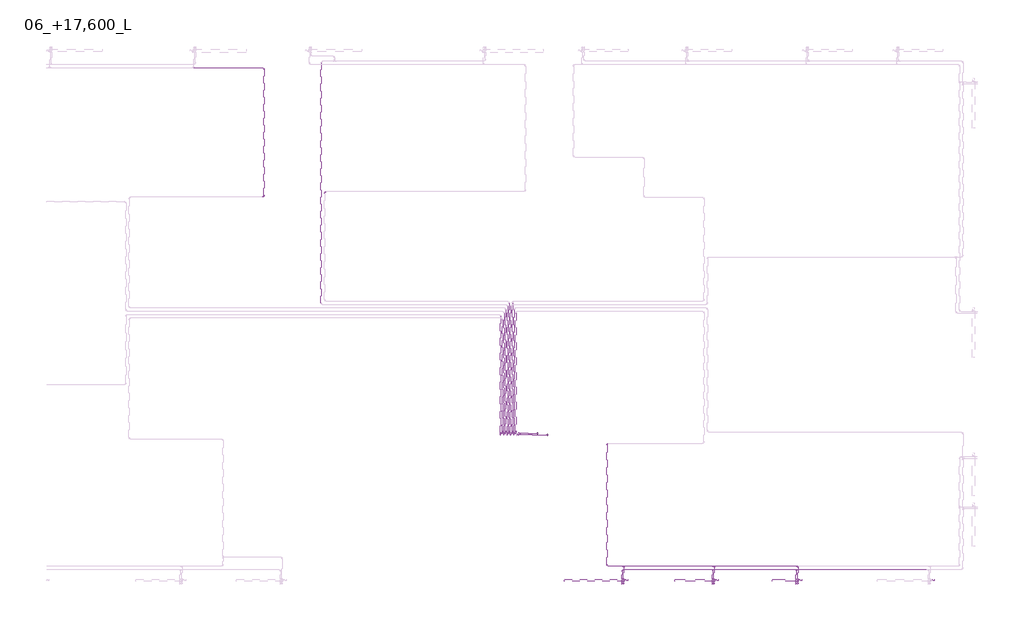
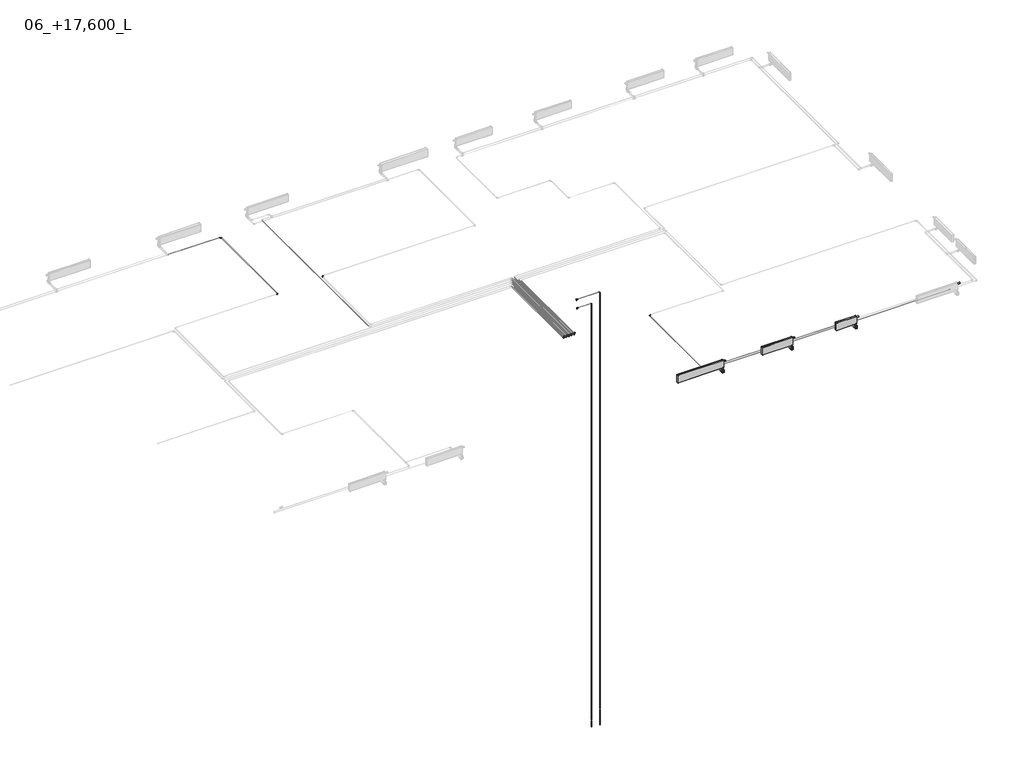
# One storey, part 3 of 7: 32 pipe segments, 31 pipe fittings, 4 valves, 3 proxies.
"""IFC4 building model written with IfcOpenShell, lengths in millimetres."""

from ifc_helpers import new_model, si_unit, point, frame, frame_2d, origin, place, context, project, spatial, circle_curve, trimmed, segment, composite_curve, outline, extrude, transform, mapped, element, save
from components import mechanical_equipment_da64a6a1, mechanical_equipment_b2526e06, mechanical_equipment_6df30eec, pipe_fitting_6ad8f151, pipe_fitting_ed936812, pipe_fitting_44bd76dc, pipe_fitting_8f811e63, pipe_fitting_d927fdfb, pipe_fitting_bc65f26d, valve_f5090433, valve_d3faaedd, valve_8453c3c0, valve_c0d130b6

model = new_model("IFC4")

# Units and contexts
model_context = context("Model", 3, world=origin())
ifc_project = project(units=[si_unit("LENGTHUNIT", "METRE", prefix="MILLI")], contexts=[model_context])

# Site, building, storey
site = spatial("IfcSite", under=ifc_project)
building = spatial("IfcBuilding", under=site)
storey = spatial("IfcBuildingStorey", under=building, Name="06_+17,600_L", Elevation=17600.0)

# Proxies
placement = place(None, origin())
mechanical_equipment_shape = mechanical_equipment_da64a6a1(model_context)
element("IfcBuildingElementProxy", 1, Name="EVRA CV Д : 21-300-1200", ObjectType="EVRA CV Д : 21-300-1200", at=placement, inside=storey, context=model_context, shape_type="MappedRepresentation", body=[
    mapped(mechanical_equipment_shape, transform((73800.0, 112561.4631102, 31400.0), x_axis=(-1.0, 0.0, 0.0), y_axis=(0.0, -1.0, 0.0), z_axis=(0.0, 0.0, 1.0))),
])
mechanical_equipment_2_shape = mechanical_equipment_b2526e06(model_context)
element("IfcBuildingElementProxy", 2, Name="EVRA CV Д : 21-300-800", ObjectType="EVRA CV Д : 21-300-800", at=placement, inside=storey, context=model_context, shape_type="MappedRepresentation", body=[
    mapped(mechanical_equipment_2_shape, transform((76500.0, 112561.4631102, 31400.0), x_axis=(-1.0, 0.0, 0.0), y_axis=(0.0, -1.0, 0.0), z_axis=(0.0, 0.0, 1.0))),
])
mechanical_equipment_3_shape = mechanical_equipment_6df30eec(model_context)
element("IfcBuildingElementProxy", 3, Name="EVRA CV Д : 21-300-1800", ObjectType="EVRA CV Д : 21-300-1800", at=placement, inside=storey, context=model_context, shape_type="MappedRepresentation", body=[
    mapped(mechanical_equipment_3_shape, transform((70800.0, 112561.4631102, 31400.0), x_axis=(-1.0, 0.0, 0.0), y_axis=(0.0, -1.0, 0.0), z_axis=(0.0, 0.0, 1.0))),
])

# Pipe fittings
pipe_fitting_shape = pipe_fitting_6ad8f151(model_context)
element("IfcPipeFitting", 4, ObjectType="ADSK_ЧугунРезьба_Угольник_ГОСТ8946-75 : Неоцинкованные", at=placement, inside=storey, context=model_context, shape_type="MappedRepresentation", body=[
    mapped(pipe_fitting_shape, transform((69191.7798813, 116926.95231, 32784.1856315), x_axis=(1.0, 0.0, 0.0), y_axis=(0.0, 0.0, -1.0), z_axis=(0.0, 1.0, 0.0))),
])
element("IfcPipeFitting", 5, ObjectType="ADSK_ЧугунРезьба_Угольник_ГОСТ8946-75 : Неоцинкованные", at=placement, inside=storey, context=model_context, shape_type="MappedRepresentation", body=[
    mapped(pipe_fitting_shape, transform((68898.0298813, 116971.95231, 32384.1856315), x_axis=(1.0, 0.0, 0.0), y_axis=(0.0, 0.0, -1.0), z_axis=(0.0, 1.0, 0.0))),
])
pipe_fitting_2_shape = pipe_fitting_ed936812(model_context)
element("IfcPipeFitting", 6, ObjectType="ADSK_Пресс-фитинг ПЭ_Поворот с фиксатором : Поворот трубы", at=placement, inside=storey, context=model_context, shape_type="MappedRepresentation", body=[
    mapped(pipe_fitting_2_shape, transform((68245.0, 116971.95231, 31350.0), x_axis=(0.0, -1.0, 0.0), y_axis=(0.0, 0.0, 1.0), z_axis=(-1.0, 0.0, 0.0))),
])
element("IfcPipeFitting", 7, ObjectType="ADSK_Пресс-фитинг ПЭ_Поворот с фиксатором : Поворот трубы", at=placement, inside=storey, context=model_context, shape_type="MappedRepresentation", body=[
    mapped(pipe_fitting_2_shape, transform((68145.0, 116971.95231, 31350.0), x_axis=(0.0, -1.0, 0.0), y_axis=(0.0, 0.0, 1.0), z_axis=(-1.0, 0.0, 0.0))),
])
element("IfcPipeFitting", 8, ObjectType="ADSK_Пресс-фитинг ПЭ_Поворот с фиксатором : Поворот трубы", at=placement, inside=storey, context=model_context, shape_type="MappedRepresentation", body=[
    mapped(pipe_fitting_2_shape, transform((68095.0, 116926.95231, 31350.0), x_axis=(0.0, -1.0, 0.0), y_axis=(0.0, 0.0, 1.0), z_axis=(-1.0, 0.0, 0.0))),
])
element("IfcPipeFitting", 9, ObjectType="ADSK_Пресс-фитинг ПЭ_Поворот с фиксатором : Поворот трубы", at=placement, inside=storey, context=model_context, shape_type="MappedRepresentation", body=[
    mapped(pipe_fitting_2_shape, transform((68195.0, 116926.95231, 31350.0), x_axis=(0.0, -1.0, 0.0), y_axis=(0.0, 0.0, 1.0), z_axis=(-1.0, 0.0, 0.0))),
])
element("IfcPipeFitting", 10, ObjectType="ADSK_Пресс-фитинг ПЭ_Поворот с фиксатором : Поворот трубы", at=placement, inside=storey, context=model_context, shape_type="MappedRepresentation", body=[
    mapped(pipe_fitting_2_shape, transform((67995.0, 116926.95231, 31350.0), x_axis=(0.0, -1.0, 0.0), y_axis=(0.0, 0.0, 1.0), z_axis=(-1.0, 0.0, 0.0))),
])
element("IfcPipeFitting", 11, ObjectType="ADSK_Пресс-фитинг ПЭ_Поворот с фиксатором : Поворот трубы", at=placement, inside=storey, context=model_context, shape_type="MappedRepresentation", body=[
    mapped(pipe_fitting_2_shape, transform((67895.0, 116926.95231, 31350.0), x_axis=(0.0, -1.0, 0.0), y_axis=(0.0, 0.0, 1.0), z_axis=(-1.0, 0.0, 0.0))),
])
element("IfcPipeFitting", 12, ObjectType="ADSK_Пресс-фитинг ПЭ_Поворот с фиксатором : Поворот трубы", at=placement, inside=storey, context=model_context, shape_type="MappedRepresentation", body=[
    mapped(pipe_fitting_2_shape, transform((67795.0, 116926.95231, 31350.0), x_axis=(0.0, -1.0, 0.0), y_axis=(0.0, 0.0, 1.0), z_axis=(-1.0, 0.0, 0.0))),
])
element("IfcPipeFitting", 13, ObjectType="ADSK_Пресс-фитинг ПЭ_Поворот с фиксатором : Поворот трубы", at=placement, inside=storey, context=model_context, shape_type="MappedRepresentation", body=[
    mapped(pipe_fitting_2_shape, transform((67845.0, 116971.95231, 31350.0), x_axis=(0.0, -1.0, 0.0), y_axis=(0.0, 0.0, 1.0), z_axis=(-1.0, 0.0, 0.0))),
])
element("IfcPipeFitting", 14, ObjectType="ADSK_Пресс-фитинг ПЭ_Поворот с фиксатором : Поворот трубы", at=placement, inside=storey, context=model_context, shape_type="MappedRepresentation", body=[
    mapped(pipe_fitting_2_shape, transform((67945.0, 116971.95231, 31350.0), x_axis=(0.0, -1.0, 0.0), y_axis=(0.0, 0.0, 1.0), z_axis=(-1.0, 0.0, 0.0))),
])
element("IfcPipeFitting", 15, ObjectType="ADSK_Пресс-фитинг ПЭ_Поворот с фиксатором : Поворот трубы", at=placement, inside=storey, context=model_context, shape_type="MappedRepresentation", body=[
    mapped(pipe_fitting_2_shape, transform((68045.0, 116971.95231, 31350.0), x_axis=(0.0, -1.0, 0.0), y_axis=(0.0, 0.0, 1.0), z_axis=(-1.0, 0.0, 0.0))),
])
pipe_fitting_3_shape = pipe_fitting_44bd76dc(model_context)
element("IfcPipeFitting", 16, ObjectType="ADSK_Пресс-фитинг ПЭ_Тройник : Пластик черный", at=placement, inside=storey, context=model_context, shape_type="MappedRepresentation", body=[
    mapped(pipe_fitting_3_shape, transform((71470.0, 113000.0, 31350.0), x_axis=(1.0, 0.0, 0.0), y_axis=(0.0, 1.0, 0.0), z_axis=(0.0, 0.0, 1.0))),
])
element("IfcPipeFitting", 17, ObjectType="ADSK_Пресс-фитинг ПЭ_Тройник : Пластик черный", at=placement, inside=storey, context=model_context, shape_type="MappedRepresentation", body=[
    mapped(pipe_fitting_3_shape, transform((76670.0, 113000.0, 31350.0), x_axis=(1.0, 0.0, 0.0), y_axis=(0.0, 1.0, 0.0), z_axis=(0.0, 0.0, 1.0))),
])
element("IfcPipeFitting", 18, ObjectType="ADSK_Пресс-фитинг ПЭ_Тройник : Пластик черный", at=placement, inside=storey, context=model_context, shape_type="MappedRepresentation", body=[
    mapped(pipe_fitting_3_shape, transform((76620.0, 112900.0, 31350.0), x_axis=(1.0, 0.0, 0.0), y_axis=(0.0, 1.0, 0.0), z_axis=(0.0, 0.0, 1.0))),
])
element("IfcPipeFitting", 19, ObjectType="ADSK_Пресс-фитинг ПЭ_Тройник : Пластик черный", at=placement, inside=storey, context=model_context, shape_type="MappedRepresentation", body=[
    mapped(pipe_fitting_3_shape, transform((74170.0, 113000.0, 31350.0), x_axis=(1.0, 0.0, 0.0), y_axis=(0.0, 1.0, 0.0), z_axis=(0.0, 0.0, 1.0))),
])
element("IfcPipeFitting", 20, ObjectType="ADSK_Пресс-фитинг ПЭ_Тройник : Пластик черный", at=placement, inside=storey, context=model_context, shape_type="MappedRepresentation", body=[
    mapped(pipe_fitting_3_shape, transform((74120.0, 112900.0, 31350.0), x_axis=(1.0, 0.0, 0.0), y_axis=(0.0, 1.0, 0.0), z_axis=(0.0, 0.0, 1.0))),
])
pipe_fitting_4_shape = pipe_fitting_8f811e63(model_context)
element("IfcPipeFitting", 21, ObjectType="ADSK_Пресс-фитинг ПЭ_Поворот с фиксатором : Поворот трубы", at=placement, inside=storey, context=model_context, shape_type="MappedRepresentation", body=[
    mapped(pipe_fitting_4_shape, transform((60730.0, 127900.0, 31350.0), x_axis=(0.0, 1.0, 0.0), y_axis=(-1.0, 0.0, 0.0), z_axis=(0.0, 0.0, 1.0))),
])
element("IfcPipeFitting", 22, ObjectType="ADSK_Пресс-фитинг ПЭ_Поворот с фиксатором : Поворот трубы", at=placement, inside=storey, context=model_context, shape_type="MappedRepresentation", body=[
    mapped(pipe_fitting_4_shape, transform((70970.0, 113000.0, 31350.0), x_axis=(0.0, -1.0, 0.0), y_axis=(1.0, 0.0, 0.0), z_axis=(0.0, 0.0, 1.0))),
])
element("IfcPipeFitting", 23, ObjectType="ADSK_Пресс-фитинг ПЭ_Поворот с фиксатором : Поворот трубы", at=placement, inside=storey, context=model_context, shape_type="MappedRepresentation", body=[
    mapped(pipe_fitting_4_shape, transform((70970.0, 116670.0, 31350.0), x_axis=(-1.0, 0.0, 0.0), y_axis=(0.0, -1.0, 0.0), z_axis=(0.0, 0.0, 1.0))),
])
element("IfcPipeFitting", 24, ObjectType="ADSK_Пресс-фитинг ПЭ_Поворот с фиксатором : Поворот трубы", at=placement, inside=storey, context=model_context, shape_type="MappedRepresentation", body=[
    mapped(pipe_fitting_4_shape, transform((62535.0, 124200.0, 31350.0), x_axis=(-1.0, 0.0, 0.0), y_axis=(0.0, -1.0, 0.0), z_axis=(0.0, 0.0, 1.0))),
])
element("IfcPipeFitting", 25, ObjectType="ADSK_Пресс-фитинг ПЭ_Поворот с фиксатором : Поворот трубы", at=placement, inside=storey, context=model_context, shape_type="MappedRepresentation", body=[
    mapped(pipe_fitting_4_shape, transform((60730.0, 124040.0, 31350.0), x_axis=(1.0, 0.0, 0.0), y_axis=(0.0, 1.0, 0.0), z_axis=(0.0, 0.0, 1.0))),
])
element("IfcPipeFitting", 26, ObjectType="ADSK_Пресс-фитинг ПЭ_Поворот с фиксатором : Поворот трубы", at=placement, inside=storey, context=model_context, shape_type="MappedRepresentation", body=[
    mapped(pipe_fitting_4_shape, transform((71420.0, 112900.0, 31350.0), x_axis=(-1.0, 0.0, 0.0), y_axis=(0.0, -1.0, 0.0), z_axis=(0.0, 0.0, 1.0))),
])
pipe_fitting_5_shape = pipe_fitting_d927fdfb(model_context)
element("IfcPipeFitting", 27, ObjectType="Трубка Г-образная VTm.481.PC из стены : VTm.481.PC", at=placement, inside=storey, context=model_context, shape_type="MappedRepresentation", body=[
    mapped(pipe_fitting_5_shape, transform((74170.0, 112512.0, 31350.0), x_axis=(-1.0, 0.0, 0.0), y_axis=(0.0, -1.0, 0.0), z_axis=(0.0, 0.0, 1.0))),
])
element("IfcPipeFitting", 28, ObjectType="Трубка Г-образная VTm.481.PC из стены : VTm.481.PC", at=placement, inside=storey, context=model_context, shape_type="MappedRepresentation", body=[
    mapped(pipe_fitting_5_shape, transform((71470.0, 112512.0, 31350.0), x_axis=(-1.0, 0.0, 0.0), y_axis=(0.0, -1.0, 0.0), z_axis=(0.0, 0.0, 1.0))),
])
element("IfcPipeFitting", 29, ObjectType="Трубка Г-образная VTm.481.PC из стены : VTm.481.PC", at=placement, inside=storey, context=model_context, shape_type="MappedRepresentation", body=[
    mapped(pipe_fitting_5_shape, transform((76670.0, 112512.0, 31350.0), x_axis=(-1.0, 0.0, 0.0), y_axis=(0.0, -1.0, 0.0), z_axis=(0.0, 0.0, 1.0))),
])
element("IfcPipeFitting", 30, ObjectType="Трубка Г-образная VTm.481.PC из стены : VTm.481.PC", at=placement, inside=storey, context=model_context, shape_type="MappedRepresentation", body=[
    mapped(pipe_fitting_5_shape, transform((74120.0, 112512.0, 31350.0), x_axis=(-1.0, 0.0, 0.0), y_axis=(0.0, -1.0, 0.0), z_axis=(0.0, 0.0, 1.0))),
])
element("IfcPipeFitting", 31, ObjectType="Трубка Г-образная VTm.481.PC из стены : VTm.481.PC", at=placement, inside=storey, context=model_context, shape_type="MappedRepresentation", body=[
    mapped(pipe_fitting_5_shape, transform((71420.0, 112512.0, 31350.0), x_axis=(-1.0, 0.0, 0.0), y_axis=(0.0, -1.0, 0.0), z_axis=(0.0, 0.0, 1.0))),
])
element("IfcPipeFitting", 32, ObjectType="Трубка Г-образная VTm.481.PC из стены : VTm.481.PC", at=placement, inside=storey, context=model_context, shape_type="MappedRepresentation", body=[
    mapped(pipe_fitting_5_shape, transform((76620.0, 112512.0, 31350.0), x_axis=(-1.0, 0.0, 0.0), y_axis=(0.0, -1.0, 0.0), z_axis=(0.0, 0.0, 1.0))),
])
pipe_fitting_6_shape = pipe_fitting_bc65f26d(model_context)
element("IfcPipeFitting", 33, ObjectType="ADSK_ЧугунРезьба_МуфтаПереходная_ГОСТ8957-75 : Неоцинкованные", at=placement, inside=storey, context=model_context, shape_type="MappedRepresentation", body=[
    mapped(pipe_fitting_6_shape, transform((68276.0, 116926.95231, 32784.1856315), x_axis=(1.0, 0.0, 0.0), y_axis=(0.0, 1.0, 0.0), z_axis=(0.0, 0.0, 1.0))),
])
element("IfcPipeFitting", 34, ObjectType="ADSK_ЧугунРезьба_МуфтаПереходная_ГОСТ8957-75 : Неоцинкованные", at=placement, inside=storey, context=model_context, shape_type="MappedRepresentation", body=[
    mapped(pipe_fitting_6_shape, transform((68326.0, 116971.95231, 32384.1856315), x_axis=(1.0, 0.0, 0.0), y_axis=(0.0, 1.0, 0.0), z_axis=(0.0, 0.0, 1.0))),
])

# Pipe segments
element("IfcPipeSegment", 35, ObjectType="ADSK_Сталь водогазопроводная_Неоцинкованная_ГОСТ 3262-75", at=placement, inside=storey, context=model_context, shape_type="SweptSolid", body=[
    extrude(outline(composite_curve([segment(trimmed(circle_curve(frame_2d((116926.95231, 32784.1856315)), 10.65), [point((116937.60231, 32784.1856315))], [point((116926.95231, 32773.5356315))], False, "CARTESIAN"), True, "CONTINUOUS"), segment(trimmed(circle_curve(frame_2d((116926.95231, 32784.1856315)), 10.65), [point((116926.95231, 32773.5356315))], [point((116916.30231, 32784.1856315))], False, "CARTESIAN"), True, "CONTINUOUS"), segment(trimmed(circle_curve(frame_2d((116926.95231, 32784.1856315)), 10.65), [point((116916.30231, 32784.1856315))], [point((116926.95231, 32794.8356315))], False, "CARTESIAN"), True, "CONTINUOUS"), segment(trimmed(circle_curve(frame_2d((116926.95231, 32784.1856315)), 10.65), [point((116926.95231, 32794.8356315))], [point((116937.60231, 32784.1856315))], False, "CARTESIAN"), True, "CONTINUOUS")], self_intersect=False)), frame((68326.0, 0.0, 0.0), z_axis=(1.0, 0.0, 0.0), x_axis=(0.0, 1.0, 0.0)), (0.0, 0.0, 1.0), 836.2798813),
])
element("IfcPipeSegment", 36, ObjectType="ADSK_Сталь водогазопроводная_Неоцинкованная_ГОСТ 3262-75", at=placement, inside=storey, context=model_context, shape_type="SweptSolid", body=[
    extrude(outline(composite_curve([segment(trimmed(circle_curve(frame_2d((116971.95231, 32384.1856315)), 10.65), [point((116982.60231, 32384.1856315))], [point((116971.95231, 32373.5356315))], False, "CARTESIAN"), True, "CONTINUOUS"), segment(trimmed(circle_curve(frame_2d((116971.95231, 32384.1856315)), 10.65), [point((116971.95231, 32373.5356315))], [point((116961.30231, 32384.1856315))], False, "CARTESIAN"), True, "CONTINUOUS"), segment(trimmed(circle_curve(frame_2d((116971.95231, 32384.1856315)), 10.65), [point((116961.30231, 32384.1856315))], [point((116971.95231, 32394.8356315))], False, "CARTESIAN"), True, "CONTINUOUS"), segment(trimmed(circle_curve(frame_2d((116971.95231, 32384.1856315)), 10.65), [point((116971.95231, 32394.8356315))], [point((116982.60231, 32384.1856315))], False, "CARTESIAN"), True, "CONTINUOUS")], self_intersect=False)), frame((68376.0, 0.0, 0.0), z_axis=(1.0, 0.0, 0.0), x_axis=(0.0, 1.0, 0.0)), (0.0, 0.0, 1.0), 492.5298813),
])
element("IfcPipeSegment", 37, ObjectType="ADSK_Полиэтилен сшитый", at=placement, inside=storey, context=model_context, shape_type="SweptSolid", body=[
    extrude(outline(composite_curve([segment(trimmed(circle_curve(frame_2d((113000.0, 31350.0)), 8.0), [point((113008.0, 31350.0))], [point((113000.0, 31342.0))], False, "CARTESIAN"), True, "CONTINUOUS"), segment(trimmed(circle_curve(frame_2d((113000.0, 31350.0)), 8.0), [point((113000.0, 31342.0))], [point((112992.0, 31350.0))], False, "CARTESIAN"), True, "CONTINUOUS"), segment(trimmed(circle_curve(frame_2d((113000.0, 31350.0)), 8.0), [point((112992.0, 31350.0))], [point((113000.0, 31358.0))], False, "CARTESIAN"), True, "CONTINUOUS"), segment(trimmed(circle_curve(frame_2d((113000.0, 31350.0)), 8.0), [point((113000.0, 31358.0))], [point((113008.0, 31350.0))], False, "CARTESIAN"), True, "CONTINUOUS")], self_intersect=False)), frame((71018.0, 0.0, 0.0), z_axis=(1.0, 0.0, 0.0), x_axis=(0.0, 1.0, 0.0)), (0.0, 0.0, 1.0), 432.0),
])
element("IfcPipeSegment", 38, ObjectType="ADSK_Полиэтилен сшитый", at=placement, inside=storey, context=model_context, shape_type="SweptSolid", body=[
    extrude(outline(composite_curve([segment(trimmed(circle_curve(frame_2d((31350.0, 60730.0)), 8.0), [point((31350.0, 60738.0))], [point((31358.0, 60730.0))], False, "CARTESIAN"), True, "CONTINUOUS"), segment(trimmed(circle_curve(frame_2d((31350.0, 60730.0)), 8.0), [point((31358.0, 60730.0))], [point((31350.0, 60722.0))], False, "CARTESIAN"), True, "CONTINUOUS"), segment(trimmed(circle_curve(frame_2d((31350.0, 60730.0)), 8.0), [point((31350.0, 60722.0))], [point((31342.0, 60730.0))], False, "CARTESIAN"), True, "CONTINUOUS"), segment(trimmed(circle_curve(frame_2d((31350.0, 60730.0)), 8.0), [point((31342.0, 60730.0))], [point((31350.0, 60738.0))], False, "CARTESIAN"), True, "CONTINUOUS")], self_intersect=False)), frame((0.0, 124088.0, 0.0), z_axis=(0.0, 1.0, 0.0), x_axis=(0.0, 0.0, 1.0)), (0.0, 0.0, 1.0), 3764.0),
])
element("IfcPipeSegment", 39, ObjectType="ADSK_Полиэтилен сшитый", at=placement, inside=storey, context=model_context, shape_type="SweptSolid", body=[
    extrude(outline(composite_curve([segment(trimmed(circle_curve(frame_2d((127900.0, 31350.0)), 8.0), [point((127908.0, 31350.0))], [point((127900.0, 31342.0))], False, "CARTESIAN"), True, "CONTINUOUS"), segment(trimmed(circle_curve(frame_2d((127900.0, 31350.0)), 8.0), [point((127900.0, 31342.0))], [point((127892.0, 31350.0))], False, "CARTESIAN"), True, "CONTINUOUS"), segment(trimmed(circle_curve(frame_2d((127900.0, 31350.0)), 8.0), [point((127892.0, 31350.0))], [point((127900.0, 31358.0))], False, "CARTESIAN"), True, "CONTINUOUS"), segment(trimmed(circle_curve(frame_2d((127900.0, 31350.0)), 8.0), [point((127900.0, 31358.0))], [point((127908.0, 31350.0))], False, "CARTESIAN"), True, "CONTINUOUS")], self_intersect=False)), frame((58649.0, 0.0, 0.0), z_axis=(1.0, 0.0, 0.0), x_axis=(0.0, 1.0, 0.0)), (0.0, 0.0, 1.0), 2033.0),
])
element("IfcPipeSegment", 40, ObjectType="ADSK_Полиэтилен сшитый", at=placement, inside=storey, context=model_context, shape_type="SweptSolid", body=[
    extrude(outline(composite_curve([segment(trimmed(circle_curve(frame_2d((31350.0, 62435.0)), 8.0), [point((31350.0, 62443.0))], [point((31358.0, 62435.0))], False, "CARTESIAN"), True, "CONTINUOUS"), segment(trimmed(circle_curve(frame_2d((31350.0, 62435.0)), 8.0), [point((31358.0, 62435.0))], [point((31350.0, 62427.0))], False, "CARTESIAN"), True, "CONTINUOUS"), segment(trimmed(circle_curve(frame_2d((31350.0, 62435.0)), 8.0), [point((31350.0, 62427.0))], [point((31342.0, 62435.0))], False, "CARTESIAN"), True, "CONTINUOUS"), segment(trimmed(circle_curve(frame_2d((31350.0, 62435.0)), 8.0), [point((31342.0, 62435.0))], [point((31350.0, 62443.0))], False, "CARTESIAN"), True, "CONTINUOUS")], self_intersect=False)), frame((0.0, 120869.8369308, 0.0), z_axis=(0.0, 1.0, 0.0), x_axis=(0.0, 0.0, 1.0)), (0.0, 0.0, 1.0), 7182.1630692),
])
element("IfcPipeSegment", 41, ObjectType="ADSK_Полиэтилен сшитый", at=placement, inside=storey, context=model_context, shape_type="SweptSolid", body=[
    extrude(outline(composite_curve([segment(trimmed(circle_curve(frame_2d((113000.0, 31350.0)), 8.0), [point((113008.0, 31350.0))], [point((113000.0, 31342.0))], False, "CARTESIAN"), True, "CONTINUOUS"), segment(trimmed(circle_curve(frame_2d((113000.0, 31350.0)), 8.0), [point((113000.0, 31342.0))], [point((112992.0, 31350.0))], False, "CARTESIAN"), True, "CONTINUOUS"), segment(trimmed(circle_curve(frame_2d((113000.0, 31350.0)), 8.0), [point((112992.0, 31350.0))], [point((113000.0, 31358.0))], False, "CARTESIAN"), True, "CONTINUOUS"), segment(trimmed(circle_curve(frame_2d((113000.0, 31350.0)), 8.0), [point((113000.0, 31358.0))], [point((113008.0, 31350.0))], False, "CARTESIAN"), True, "CONTINUOUS")], self_intersect=False)), frame((71490.0, 0.0, 0.0), z_axis=(1.0, 0.0, 0.0), x_axis=(0.0, 1.0, 0.0)), (0.0, 0.0, 1.0), 2660.0),
])
element("IfcPipeSegment", 42, ObjectType="ADSK_Полиэтилен сшитый", at=placement, inside=storey, context=model_context, shape_type="SweptSolid", body=[
    extrude(outline(composite_curve([segment(trimmed(circle_curve(frame_2d((31350.0, 74120.0)), 8.0), [point((31350.0, 74112.0))], [point((31342.0, 74120.0))], False, "CARTESIAN"), True, "CONTINUOUS"), segment(trimmed(circle_curve(frame_2d((31350.0, 74120.0)), 8.0), [point((31342.0, 74120.0))], [point((31350.0, 74128.0))], False, "CARTESIAN"), True, "CONTINUOUS"), segment(trimmed(circle_curve(frame_2d((31350.0, 74120.0)), 8.0), [point((31350.0, 74128.0))], [point((31358.0, 74120.0))], False, "CARTESIAN"), True, "CONTINUOUS"), segment(trimmed(circle_curve(frame_2d((31350.0, 74120.0)), 8.0), [point((31358.0, 74120.0))], [point((31350.0, 74112.0))], False, "CARTESIAN"), True, "CONTINUOUS")], self_intersect=False)), frame((0.0, 112627.0, 0.0), z_axis=(0.0, 1.0, 0.0), x_axis=(0.0, 0.0, 1.0)), (0.0, 0.0, 1.0), 249.0),
])
element("IfcPipeSegment", 43, ObjectType="ADSK_Полиэтилен сшитый", at=placement, inside=storey, context=model_context, shape_type="SweptSolid", body=[
    extrude(outline(composite_curve([segment(trimmed(circle_curve(frame_2d((112900.0, 31350.0)), 8.0), [point((112908.0, 31350.0))], [point((112900.0, 31342.0))], False, "CARTESIAN"), True, "CONTINUOUS"), segment(trimmed(circle_curve(frame_2d((112900.0, 31350.0)), 8.0), [point((112900.0, 31342.0))], [point((112892.0, 31350.0))], False, "CARTESIAN"), True, "CONTINUOUS"), segment(trimmed(circle_curve(frame_2d((112900.0, 31350.0)), 8.0), [point((112892.0, 31350.0))], [point((112900.0, 31358.0))], False, "CARTESIAN"), True, "CONTINUOUS"), segment(trimmed(circle_curve(frame_2d((112900.0, 31350.0)), 8.0), [point((112900.0, 31358.0))], [point((112908.0, 31350.0))], False, "CARTESIAN"), True, "CONTINUOUS")], self_intersect=False)), frame((71468.0, 0.0, 0.0), z_axis=(1.0, 0.0, 0.0), x_axis=(0.0, 1.0, 0.0)), (0.0, 0.0, 1.0), 2632.0),
])
element("IfcPipeSegment", 44, ObjectType="ADSK_Полиэтилен сшитый", at=placement, inside=storey, context=model_context, shape_type="SweptSolid", body=[
    extrude(outline(composite_curve([segment(trimmed(circle_curve(frame_2d((31350.0, 76620.0)), 8.0), [point((31350.0, 76612.0))], [point((31342.0, 76620.0))], False, "CARTESIAN"), True, "CONTINUOUS"), segment(trimmed(circle_curve(frame_2d((31350.0, 76620.0)), 8.0), [point((31342.0, 76620.0))], [point((31350.0, 76628.0))], False, "CARTESIAN"), True, "CONTINUOUS"), segment(trimmed(circle_curve(frame_2d((31350.0, 76620.0)), 8.0), [point((31350.0, 76628.0))], [point((31358.0, 76620.0))], False, "CARTESIAN"), True, "CONTINUOUS"), segment(trimmed(circle_curve(frame_2d((31350.0, 76620.0)), 8.0), [point((31358.0, 76620.0))], [point((31350.0, 76612.0))], False, "CARTESIAN"), True, "CONTINUOUS")], self_intersect=False)), frame((0.0, 112627.0, 0.0), z_axis=(0.0, 1.0, 0.0), x_axis=(0.0, 0.0, 1.0)), (0.0, 0.0, 1.0), 249.0),
])
element("IfcPipeSegment", 45, ObjectType="ADSK_Полиэтилен сшитый", at=placement, inside=storey, context=model_context, shape_type="SweptSolid", body=[
    extrude(outline(composite_curve([segment(trimmed(circle_curve(frame_2d((31350.0, 76670.0)), 8.0), [point((31350.0, 76662.0))], [point((31342.0, 76670.0))], False, "CARTESIAN"), True, "CONTINUOUS"), segment(trimmed(circle_curve(frame_2d((31350.0, 76670.0)), 8.0), [point((31342.0, 76670.0))], [point((31350.0, 76678.0))], False, "CARTESIAN"), True, "CONTINUOUS"), segment(trimmed(circle_curve(frame_2d((31350.0, 76670.0)), 8.0), [point((31350.0, 76678.0))], [point((31358.0, 76670.0))], False, "CARTESIAN"), True, "CONTINUOUS"), segment(trimmed(circle_curve(frame_2d((31350.0, 76670.0)), 8.0), [point((31358.0, 76670.0))], [point((31350.0, 76662.0))], False, "CARTESIAN"), True, "CONTINUOUS")], self_intersect=False)), frame((0.0, 112627.0, 0.0), z_axis=(0.0, 1.0, 0.0), x_axis=(0.0, 0.0, 1.0)), (0.0, 0.0, 1.0), 347.0),
])
element("IfcPipeSegment", 46, ObjectType="ADSK_Полиэтилен сшитый", at=placement, inside=storey, context=model_context, shape_type="SweptSolid", body=[
    extrude(outline(composite_curve([segment(trimmed(circle_curve(frame_2d((31350.0, 74170.0)), 8.0), [point((31350.0, 74162.0))], [point((31342.0, 74170.0))], False, "CARTESIAN"), True, "CONTINUOUS"), segment(trimmed(circle_curve(frame_2d((31350.0, 74170.0)), 8.0), [point((31342.0, 74170.0))], [point((31350.0, 74178.0))], False, "CARTESIAN"), True, "CONTINUOUS"), segment(trimmed(circle_curve(frame_2d((31350.0, 74170.0)), 8.0), [point((31350.0, 74178.0))], [point((31358.0, 74170.0))], False, "CARTESIAN"), True, "CONTINUOUS"), segment(trimmed(circle_curve(frame_2d((31350.0, 74170.0)), 8.0), [point((31358.0, 74170.0))], [point((31350.0, 74162.0))], False, "CARTESIAN"), True, "CONTINUOUS")], self_intersect=False)), frame((0.0, 112627.0, 0.0), z_axis=(0.0, 1.0, 0.0), x_axis=(0.0, 0.0, 1.0)), (0.0, 0.0, 1.0), 349.0),
])
element("IfcPipeSegment", 47, ObjectType="ADSK_Полиэтилен сшитый", at=placement, inside=storey, context=model_context, shape_type="SweptSolid", body=[
    extrude(outline(composite_curve([segment(trimmed(circle_curve(frame_2d((31350.0, 70970.0)), 8.0), [point((31350.0, 70978.0))], [point((31358.0, 70970.0))], False, "CARTESIAN"), True, "CONTINUOUS"), segment(trimmed(circle_curve(frame_2d((31350.0, 70970.0)), 8.0), [point((31358.0, 70970.0))], [point((31350.0, 70962.0))], False, "CARTESIAN"), True, "CONTINUOUS"), segment(trimmed(circle_curve(frame_2d((31350.0, 70970.0)), 8.0), [point((31350.0, 70962.0))], [point((31342.0, 70970.0))], False, "CARTESIAN"), True, "CONTINUOUS"), segment(trimmed(circle_curve(frame_2d((31350.0, 70970.0)), 8.0), [point((31342.0, 70970.0))], [point((31350.0, 70978.0))], False, "CARTESIAN"), True, "CONTINUOUS")], self_intersect=False)), frame((0.0, 113048.0, 0.0), z_axis=(0.0, 1.0, 0.0), x_axis=(0.0, 0.0, 1.0)), (0.0, 0.0, 1.0), 3574.0),
])
element("IfcPipeSegment", 48, ObjectType="ADSK_Полиэтилен сшитый", at=placement, inside=storey, context=model_context, shape_type="SweptSolid", body=[
    extrude(outline(composite_curve([segment(trimmed(circle_curve(frame_2d((31350.0, 71420.0)), 8.0), [point((31350.0, 71412.0))], [point((31342.0, 71420.0))], False, "CARTESIAN"), True, "CONTINUOUS"), segment(trimmed(circle_curve(frame_2d((31350.0, 71420.0)), 8.0), [point((31342.0, 71420.0))], [point((31350.0, 71428.0))], False, "CARTESIAN"), True, "CONTINUOUS"), segment(trimmed(circle_curve(frame_2d((31350.0, 71420.0)), 8.0), [point((31350.0, 71428.0))], [point((31358.0, 71420.0))], False, "CARTESIAN"), True, "CONTINUOUS"), segment(trimmed(circle_curve(frame_2d((31350.0, 71420.0)), 8.0), [point((31358.0, 71420.0))], [point((31350.0, 71412.0))], False, "CARTESIAN"), True, "CONTINUOUS")], self_intersect=False)), frame((0.0, 112627.0, 0.0), z_axis=(0.0, 1.0, 0.0), x_axis=(0.0, 0.0, 1.0)), (0.0, 0.0, 1.0), 225.0),
])
element("IfcPipeSegment", 49, ObjectType="ADSK_Полиэтилен сшитый", at=placement, inside=storey, context=model_context, shape_type="SweptSolid", body=[
    extrude(outline(composite_curve([segment(trimmed(circle_curve(frame_2d((31350.0, 71470.0)), 8.0), [point((31350.0, 71462.0))], [point((31342.0, 71470.0))], False, "CARTESIAN"), True, "CONTINUOUS"), segment(trimmed(circle_curve(frame_2d((31350.0, 71470.0)), 8.0), [point((31342.0, 71470.0))], [point((31350.0, 71478.0))], False, "CARTESIAN"), True, "CONTINUOUS"), segment(trimmed(circle_curve(frame_2d((31350.0, 71470.0)), 8.0), [point((31350.0, 71478.0))], [point((31358.0, 71470.0))], False, "CARTESIAN"), True, "CONTINUOUS"), segment(trimmed(circle_curve(frame_2d((31350.0, 71470.0)), 8.0), [point((31358.0, 71470.0))], [point((31350.0, 71462.0))], False, "CARTESIAN"), True, "CONTINUOUS")], self_intersect=False)), frame((0.0, 112627.0, 0.0), z_axis=(0.0, 1.0, 0.0), x_axis=(0.0, 0.0, 1.0)), (0.0, 0.0, 1.0), 349.0),
])
element("IfcPipeSegment", 50, ObjectType="ADSK_Полиэтилен сшитый", at=placement, inside=storey, context=model_context, shape_type="SweptSolid", body=[
    extrude(outline(composite_curve([segment(trimmed(circle_curve(frame_2d((31350.0, 67945.0)), 8.0), [point((31350.0, 67953.0))], [point((31358.0, 67945.0))], False, "CARTESIAN"), True, "CONTINUOUS"), segment(trimmed(circle_curve(frame_2d((31350.0, 67945.0)), 8.0), [point((31358.0, 67945.0))], [point((31350.0, 67937.0))], False, "CARTESIAN"), True, "CONTINUOUS"), segment(trimmed(circle_curve(frame_2d((31350.0, 67945.0)), 8.0), [point((31350.0, 67937.0))], [point((31342.0, 67945.0))], False, "CARTESIAN"), True, "CONTINUOUS"), segment(trimmed(circle_curve(frame_2d((31350.0, 67945.0)), 8.0), [point((31342.0, 67945.0))], [point((31350.0, 67953.0))], False, "CARTESIAN"), True, "CONTINUOUS")], self_intersect=False)), frame((0.0, 117019.95231, 0.0), z_axis=(0.0, 1.0, 0.0), x_axis=(0.0, 0.0, 1.0)), (0.0, 0.0, 1.0), 3653.8846208),
])
element("IfcPipeSegment", 51, ObjectType="ADSK_Полиэтилен сшитый", at=placement, inside=storey, context=model_context, shape_type="SweptSolid", body=[
    extrude(outline(composite_curve([segment(trimmed(circle_curve(frame_2d((31350.0, 67895.0)), 8.0), [point((31350.0, 67903.0))], [point((31358.0, 67895.0))], False, "CARTESIAN"), True, "CONTINUOUS"), segment(trimmed(circle_curve(frame_2d((31350.0, 67895.0)), 8.0), [point((31358.0, 67895.0))], [point((31350.0, 67887.0))], False, "CARTESIAN"), True, "CONTINUOUS"), segment(trimmed(circle_curve(frame_2d((31350.0, 67895.0)), 8.0), [point((31350.0, 67887.0))], [point((31342.0, 67895.0))], False, "CARTESIAN"), True, "CONTINUOUS"), segment(trimmed(circle_curve(frame_2d((31350.0, 67895.0)), 8.0), [point((31342.0, 67895.0))], [point((31350.0, 67903.0))], False, "CARTESIAN"), True, "CONTINUOUS")], self_intersect=False)), frame((0.0, 116974.95231, 0.0), z_axis=(0.0, 1.0, 0.0), x_axis=(0.0, 0.0, 1.0)), (0.0, 0.0, 1.0), 3598.8846208),
])
element("IfcPipeSegment", 52, ObjectType="ADSK_Полиэтилен сшитый", at=placement, inside=storey, context=model_context, shape_type="SweptSolid", body=[
    extrude(outline(composite_curve([segment(trimmed(circle_curve(frame_2d((31350.0, 67995.0)), 8.0), [point((31350.0, 68003.0))], [point((31358.0, 67995.0))], False, "CARTESIAN"), True, "CONTINUOUS"), segment(trimmed(circle_curve(frame_2d((31350.0, 67995.0)), 8.0), [point((31358.0, 67995.0))], [point((31350.0, 67987.0))], False, "CARTESIAN"), True, "CONTINUOUS"), segment(trimmed(circle_curve(frame_2d((31350.0, 67995.0)), 8.0), [point((31350.0, 67987.0))], [point((31342.0, 67995.0))], False, "CARTESIAN"), True, "CONTINUOUS"), segment(trimmed(circle_curve(frame_2d((31350.0, 67995.0)), 8.0), [point((31342.0, 67995.0))], [point((31350.0, 68003.0))], False, "CARTESIAN"), True, "CONTINUOUS")], self_intersect=False)), frame((0.0, 116974.95231, 0.0), z_axis=(0.0, 1.0, 0.0), x_axis=(0.0, 0.0, 1.0)), (0.0, 0.0, 1.0), 3798.8846208),
])
element("IfcPipeSegment", 53, ObjectType="ADSK_Полиэтилен сшитый", at=placement, inside=storey, context=model_context, shape_type="SweptSolid", body=[
    extrude(outline(composite_curve([segment(trimmed(circle_curve(frame_2d((31350.0, 68045.0)), 8.0), [point((31350.0, 68053.0))], [point((31358.0, 68045.0))], False, "CARTESIAN"), True, "CONTINUOUS"), segment(trimmed(circle_curve(frame_2d((31350.0, 68045.0)), 8.0), [point((31358.0, 68045.0))], [point((31350.0, 68037.0))], False, "CARTESIAN"), True, "CONTINUOUS"), segment(trimmed(circle_curve(frame_2d((31350.0, 68045.0)), 8.0), [point((31350.0, 68037.0))], [point((31342.0, 68045.0))], False, "CARTESIAN"), True, "CONTINUOUS"), segment(trimmed(circle_curve(frame_2d((31350.0, 68045.0)), 8.0), [point((31342.0, 68045.0))], [point((31350.0, 68053.0))], False, "CARTESIAN"), True, "CONTINUOUS")], self_intersect=False)), frame((0.0, 117019.95231, 0.0), z_axis=(0.0, 1.0, 0.0), x_axis=(0.0, 0.0, 1.0)), (0.0, 0.0, 1.0), 3853.8846208),
])
element("IfcPipeSegment", 54, ObjectType="ADSK_Полиэтилен сшитый", at=placement, inside=storey, context=model_context, shape_type="SweptSolid", body=[
    extrude(outline(composite_curve([segment(trimmed(circle_curve(frame_2d((31350.0, 67795.0)), 8.0), [point((31350.0, 67803.0))], [point((31358.0, 67795.0))], False, "CARTESIAN"), True, "CONTINUOUS"), segment(trimmed(circle_curve(frame_2d((31350.0, 67795.0)), 8.0), [point((31358.0, 67795.0))], [point((31350.0, 67787.0))], False, "CARTESIAN"), True, "CONTINUOUS"), segment(trimmed(circle_curve(frame_2d((31350.0, 67795.0)), 8.0), [point((31350.0, 67787.0))], [point((31342.0, 67795.0))], False, "CARTESIAN"), True, "CONTINUOUS"), segment(trimmed(circle_curve(frame_2d((31350.0, 67795.0)), 8.0), [point((31342.0, 67795.0))], [point((31350.0, 67803.0))], False, "CARTESIAN"), True, "CONTINUOUS")], self_intersect=False)), frame((0.0, 116974.95231, 0.0), z_axis=(0.0, 1.0, 0.0), x_axis=(0.0, 0.0, 1.0)), (0.0, 0.0, 1.0), 3498.8846208),
])
element("IfcPipeSegment", 55, ObjectType="ADSK_Полиэтилен сшитый", at=placement, inside=storey, context=model_context, shape_type="SweptSolid", body=[
    extrude(outline(composite_curve([segment(trimmed(circle_curve(frame_2d((31350.0, 67845.0)), 8.0), [point((31350.0, 67853.0))], [point((31358.0, 67845.0))], False, "CARTESIAN"), True, "CONTINUOUS"), segment(trimmed(circle_curve(frame_2d((31350.0, 67845.0)), 8.0), [point((31358.0, 67845.0))], [point((31350.0, 67837.0))], False, "CARTESIAN"), True, "CONTINUOUS"), segment(trimmed(circle_curve(frame_2d((31350.0, 67845.0)), 8.0), [point((31350.0, 67837.0))], [point((31342.0, 67845.0))], False, "CARTESIAN"), True, "CONTINUOUS"), segment(trimmed(circle_curve(frame_2d((31350.0, 67845.0)), 8.0), [point((31342.0, 67845.0))], [point((31350.0, 67853.0))], False, "CARTESIAN"), True, "CONTINUOUS")], self_intersect=False)), frame((0.0, 117019.95231, 0.0), z_axis=(0.0, 1.0, 0.0), x_axis=(0.0, 0.0, 1.0)), (0.0, 0.0, 1.0), 3353.8846208),
])
element("IfcPipeSegment", 56, ObjectType="ADSK_Полиэтилен сшитый", at=placement, inside=storey, context=model_context, shape_type="SweptSolid", body=[
    extrude(outline(composite_curve([segment(trimmed(circle_curve(frame_2d((31350.0, 68095.0)), 8.0), [point((31350.0, 68103.0))], [point((31358.0, 68095.0))], False, "CARTESIAN"), True, "CONTINUOUS"), segment(trimmed(circle_curve(frame_2d((31350.0, 68095.0)), 8.0), [point((31358.0, 68095.0))], [point((31350.0, 68087.0))], False, "CARTESIAN"), True, "CONTINUOUS"), segment(trimmed(circle_curve(frame_2d((31350.0, 68095.0)), 8.0), [point((31350.0, 68087.0))], [point((31342.0, 68095.0))], False, "CARTESIAN"), True, "CONTINUOUS"), segment(trimmed(circle_curve(frame_2d((31350.0, 68095.0)), 8.0), [point((31342.0, 68095.0))], [point((31350.0, 68103.0))], False, "CARTESIAN"), True, "CONTINUOUS")], self_intersect=False)), frame((0.0, 116974.95231, 0.0), z_axis=(0.0, 1.0, 0.0), x_axis=(0.0, 0.0, 1.0)), (0.0, 0.0, 1.0), 3798.8846208),
])
element("IfcPipeSegment", 57, ObjectType="ADSK_Полиэтилен сшитый", at=placement, inside=storey, context=model_context, shape_type="SweptSolid", body=[
    extrude(outline(composite_curve([segment(trimmed(circle_curve(frame_2d((31350.0, 68145.0)), 8.0), [point((31350.0, 68153.0))], [point((31358.0, 68145.0))], False, "CARTESIAN"), True, "CONTINUOUS"), segment(trimmed(circle_curve(frame_2d((31350.0, 68145.0)), 8.0), [point((31358.0, 68145.0))], [point((31350.0, 68137.0))], False, "CARTESIAN"), True, "CONTINUOUS"), segment(trimmed(circle_curve(frame_2d((31350.0, 68145.0)), 8.0), [point((31350.0, 68137.0))], [point((31342.0, 68145.0))], False, "CARTESIAN"), True, "CONTINUOUS"), segment(trimmed(circle_curve(frame_2d((31350.0, 68145.0)), 8.0), [point((31342.0, 68145.0))], [point((31350.0, 68153.0))], False, "CARTESIAN"), True, "CONTINUOUS")], self_intersect=False)), frame((0.0, 117019.95231, 0.0), z_axis=(0.0, 1.0, 0.0), x_axis=(0.0, 0.0, 1.0)), (0.0, 0.0, 1.0), 3853.8846208),
])
element("IfcPipeSegment", 58, ObjectType="ADSK_Полиэтилен сшитый", at=placement, inside=storey, context=model_context, shape_type="SweptSolid", body=[
    extrude(outline(composite_curve([segment(trimmed(circle_curve(frame_2d((31350.0, 68195.0)), 8.0), [point((31350.0, 68203.0))], [point((31358.0, 68195.0))], False, "CARTESIAN"), True, "CONTINUOUS"), segment(trimmed(circle_curve(frame_2d((31350.0, 68195.0)), 8.0), [point((31358.0, 68195.0))], [point((31350.0, 68187.0))], False, "CARTESIAN"), True, "CONTINUOUS"), segment(trimmed(circle_curve(frame_2d((31350.0, 68195.0)), 8.0), [point((31350.0, 68187.0))], [point((31342.0, 68195.0))], False, "CARTESIAN"), True, "CONTINUOUS"), segment(trimmed(circle_curve(frame_2d((31350.0, 68195.0)), 8.0), [point((31342.0, 68195.0))], [point((31350.0, 68203.0))], False, "CARTESIAN"), True, "CONTINUOUS")], self_intersect=False)), frame((0.0, 116974.95231, 0.0), z_axis=(0.0, 1.0, 0.0), x_axis=(0.0, 0.0, 1.0)), (0.0, 0.0, 1.0), 3698.8846208),
])
element("IfcPipeSegment", 59, ObjectType="ADSK_Полиэтилен сшитый", at=placement, inside=storey, context=model_context, shape_type="SweptSolid", body=[
    extrude(outline(composite_curve([segment(trimmed(circle_curve(frame_2d((31350.0, 68245.0)), 8.0), [point((31350.0, 68253.0))], [point((31358.0, 68245.0))], False, "CARTESIAN"), True, "CONTINUOUS"), segment(trimmed(circle_curve(frame_2d((31350.0, 68245.0)), 8.0), [point((31358.0, 68245.0))], [point((31350.0, 68237.0))], False, "CARTESIAN"), True, "CONTINUOUS"), segment(trimmed(circle_curve(frame_2d((31350.0, 68245.0)), 8.0), [point((31350.0, 68237.0))], [point((31342.0, 68245.0))], False, "CARTESIAN"), True, "CONTINUOUS"), segment(trimmed(circle_curve(frame_2d((31350.0, 68245.0)), 8.0), [point((31342.0, 68245.0))], [point((31350.0, 68253.0))], False, "CARTESIAN"), True, "CONTINUOUS")], self_intersect=False)), frame((0.0, 117019.95231, 0.0), z_axis=(0.0, 1.0, 0.0), x_axis=(0.0, 0.0, 1.0)), (0.0, 0.0, 1.0), 3553.8846208),
])
element("IfcPipeSegment", 60, ObjectType="ADSK_Полиэтилен сшитый", at=placement, inside=storey, context=model_context, shape_type="SweptSolid", body=[
    extrude(outline(composite_curve([segment(trimmed(circle_curve(frame_2d((112900.0, 31350.0)), 8.0), [point((112908.0, 31350.0))], [point((112900.0, 31342.0))], False, "CARTESIAN"), True, "CONTINUOUS"), segment(trimmed(circle_curve(frame_2d((112900.0, 31350.0)), 8.0), [point((112900.0, 31342.0))], [point((112892.0, 31350.0))], False, "CARTESIAN"), True, "CONTINUOUS"), segment(trimmed(circle_curve(frame_2d((112900.0, 31350.0)), 8.0), [point((112892.0, 31350.0))], [point((112900.0, 31358.0))], False, "CARTESIAN"), True, "CONTINUOUS"), segment(trimmed(circle_curve(frame_2d((112900.0, 31350.0)), 8.0), [point((112900.0, 31358.0))], [point((112908.0, 31350.0))], False, "CARTESIAN"), True, "CONTINUOUS")], self_intersect=False)), frame((76640.0, 0.0, 0.0), z_axis=(1.0, 0.0, 0.0), x_axis=(0.0, 1.0, 0.0)), (0.0, 0.0, 1.0), 3911.0),
])
element("IfcPipeSegment", 61, ObjectType="ADSK_Полиэтилен сшитый", at=placement, inside=storey, context=model_context, shape_type="SweptSolid", body=[
    extrude(outline(composite_curve([segment(trimmed(circle_curve(frame_2d((113000.0, 31350.0)), 8.0), [point((113008.0, 31350.0))], [point((113000.0, 31342.0))], False, "CARTESIAN"), True, "CONTINUOUS"), segment(trimmed(circle_curve(frame_2d((113000.0, 31350.0)), 8.0), [point((113000.0, 31342.0))], [point((112992.0, 31350.0))], False, "CARTESIAN"), True, "CONTINUOUS"), segment(trimmed(circle_curve(frame_2d((113000.0, 31350.0)), 8.0), [point((112992.0, 31350.0))], [point((113000.0, 31358.0))], False, "CARTESIAN"), True, "CONTINUOUS"), segment(trimmed(circle_curve(frame_2d((113000.0, 31350.0)), 8.0), [point((113000.0, 31358.0))], [point((113008.0, 31350.0))], False, "CARTESIAN"), True, "CONTINUOUS")], self_intersect=False)), frame((74190.0, 0.0, 0.0), z_axis=(1.0, 0.0, 0.0), x_axis=(0.0, 1.0, 0.0)), (0.0, 0.0, 1.0), 2461.0),
])
element("IfcPipeSegment", 62, ObjectType="ADSK_Полиэтилен сшитый", at=placement, inside=storey, context=model_context, shape_type="SweptSolid", body=[
    extrude(outline(composite_curve([segment(trimmed(circle_curve(frame_2d((112900.0, 31350.0)), 8.0), [point((112908.0, 31350.0))], [point((112900.0, 31342.0))], False, "CARTESIAN"), True, "CONTINUOUS"), segment(trimmed(circle_curve(frame_2d((112900.0, 31350.0)), 8.0), [point((112900.0, 31342.0))], [point((112892.0, 31350.0))], False, "CARTESIAN"), True, "CONTINUOUS"), segment(trimmed(circle_curve(frame_2d((112900.0, 31350.0)), 8.0), [point((112892.0, 31350.0))], [point((112900.0, 31358.0))], False, "CARTESIAN"), True, "CONTINUOUS"), segment(trimmed(circle_curve(frame_2d((112900.0, 31350.0)), 8.0), [point((112900.0, 31358.0))], [point((112908.0, 31350.0))], False, "CARTESIAN"), True, "CONTINUOUS")], self_intersect=False)), frame((74140.0, 0.0, 0.0), z_axis=(1.0, 0.0, 0.0), x_axis=(0.0, 1.0, 0.0)), (0.0, 0.0, 1.0), 2460.0),
])
element("IfcPipeSegment", 63, ObjectType="ADSK_Сталь водогазопроводная_Неоцинкованная_ГОСТ 3262-75", at=placement, inside=storey, context=model_context, shape_type="SweptSolid", body=[
    extrude(outline(composite_curve([segment(trimmed(circle_curve(frame_2d((68898.0298813, 116971.95231)), 10.65), [point((68908.6798813, 116971.95231))], [point((68898.0298813, 116961.30231))], False, "CARTESIAN"), True, "CONTINUOUS"), segment(trimmed(circle_curve(frame_2d((68898.0298813, 116971.95231)), 10.65), [point((68898.0298813, 116961.30231))], [point((68887.3798813, 116971.95231))], False, "CARTESIAN"), True, "CONTINUOUS"), segment(trimmed(circle_curve(frame_2d((68898.0298813, 116971.95231)), 10.65), [point((68887.3798813, 116971.95231))], [point((68898.0298813, 116982.60231))], False, "CARTESIAN"), True, "CONTINUOUS"), segment(trimmed(circle_curve(frame_2d((68898.0298813, 116971.95231)), 10.65), [point((68898.0298813, 116982.60231))], [point((68908.6798813, 116971.95231))], False, "CARTESIAN"), True, "CONTINUOUS")], self_intersect=False)), frame((0.0, 0.0, 14894.5484362), z_axis=(0.0, 0.0, 1.0), x_axis=(1.0, 0.0, 0.0)), (0.0, 0.0, 1.0), 240.0),
])
element("IfcPipeSegment", 64, ObjectType="ADSK_Сталь водогазопроводная_Неоцинкованная_ГОСТ 3262-75", at=placement, inside=storey, context=model_context, shape_type="SweptSolid", body=[
    extrude(outline(composite_curve([segment(trimmed(circle_curve(frame_2d((68898.0298813, 116971.95231)), 10.65), [point((68908.6798813, 116971.95231))], [point((68898.0298813, 116961.30231))], False, "CARTESIAN"), True, "CONTINUOUS"), segment(trimmed(circle_curve(frame_2d((68898.0298813, 116971.95231)), 10.65), [point((68898.0298813, 116961.30231))], [point((68887.3798813, 116971.95231))], False, "CARTESIAN"), True, "CONTINUOUS"), segment(trimmed(circle_curve(frame_2d((68898.0298813, 116971.95231)), 10.65), [point((68887.3798813, 116971.95231))], [point((68898.0298813, 116982.60231))], False, "CARTESIAN"), True, "CONTINUOUS"), segment(trimmed(circle_curve(frame_2d((68898.0298813, 116971.95231)), 10.65), [point((68898.0298813, 116982.60231))], [point((68908.6798813, 116971.95231))], False, "CARTESIAN"), True, "CONTINUOUS")], self_intersect=False)), frame((0.0, 0.0, 15190.5484362), z_axis=(0.0, 0.0, 1.0), x_axis=(1.0, 0.0, 0.0)), (0.0, 0.0, 1.0), 17164.1371953),
])
element("IfcPipeSegment", 65, ObjectType="ADSK_Сталь водогазопроводная_Неоцинкованная_ГОСТ 3262-75", at=placement, inside=storey, context=model_context, shape_type="SweptSolid", body=[
    extrude(outline(composite_curve([segment(trimmed(circle_curve(frame_2d((69191.7798813, 116926.95231)), 10.65), [point((69202.4298813, 116926.95231))], [point((69191.7798813, 116916.30231))], False, "CARTESIAN"), True, "CONTINUOUS"), segment(trimmed(circle_curve(frame_2d((69191.7798813, 116926.95231)), 10.65), [point((69191.7798813, 116916.30231))], [point((69181.1298813, 116926.95231))], False, "CARTESIAN"), True, "CONTINUOUS"), segment(trimmed(circle_curve(frame_2d((69191.7798813, 116926.95231)), 10.65), [point((69181.1298813, 116926.95231))], [point((69191.7798813, 116937.60231))], False, "CARTESIAN"), True, "CONTINUOUS"), segment(trimmed(circle_curve(frame_2d((69191.7798813, 116926.95231)), 10.65), [point((69191.7798813, 116937.60231))], [point((69202.4298813, 116926.95231))], False, "CARTESIAN"), True, "CONTINUOUS")], self_intersect=False)), frame((0.0, 0.0, 14914.5484362), z_axis=(0.0, 0.0, 1.0), x_axis=(1.0, 0.0, 0.0)), (0.0, 0.0, 1.0), 620.0),
])
element("IfcPipeSegment", 66, ObjectType="ADSK_Сталь водогазопроводная_Неоцинкованная_ГОСТ 3262-75", at=placement, inside=storey, context=model_context, shape_type="SweptSolid", body=[
    extrude(outline(composite_curve([segment(trimmed(circle_curve(frame_2d((69191.7798813, 116926.95231)), 10.65), [point((69202.4298813, 116926.95231))], [point((69191.7798813, 116916.30231))], False, "CARTESIAN"), True, "CONTINUOUS"), segment(trimmed(circle_curve(frame_2d((69191.7798813, 116926.95231)), 10.65), [point((69191.7798813, 116916.30231))], [point((69181.1298813, 116926.95231))], False, "CARTESIAN"), True, "CONTINUOUS"), segment(trimmed(circle_curve(frame_2d((69191.7798813, 116926.95231)), 10.65), [point((69181.1298813, 116926.95231))], [point((69191.7798813, 116937.60231))], False, "CARTESIAN"), True, "CONTINUOUS"), segment(trimmed(circle_curve(frame_2d((69191.7798813, 116926.95231)), 10.65), [point((69191.7798813, 116937.60231))], [point((69202.4298813, 116926.95231))], False, "CARTESIAN"), True, "CONTINUOUS")], self_intersect=False)), frame((0.0, 0.0, 15590.5484362), z_axis=(0.0, 0.0, 1.0), x_axis=(1.0, 0.0, 0.0)), (0.0, 0.0, 1.0), 17164.1371953),
])

# Valves
valve_shape = valve_f5090433(model_context)
element("IfcValve", 67, ObjectType="EVRA_Термоголовка EVRA MТB140 : EVRA MТB140", at=placement, inside=storey, context=model_context, shape_type="MappedRepresentation", body=[
    mapped(valve_shape, transform((73600.0, 112587.0, 31750.0), x_axis=(-1.0, 0.0, 0.0), y_axis=(0.0, -1.0, 0.0), z_axis=(0.0, 0.0, 1.0))),
])
valve_2_shape = valve_d3faaedd(model_context)
element("IfcValve", 68, ObjectType="EVRA_Термоголовка EVRA MТB140 : EVRA MТB140", at=placement, inside=storey, context=model_context, shape_type="MappedRepresentation", body=[
    mapped(valve_2_shape, transform((70600.0, 112587.0, 31750.0), x_axis=(-1.0, 0.0, 0.0), y_axis=(0.0, -1.0, 0.0), z_axis=(0.0, 0.0, 1.0))),
])
valve_3_shape = valve_8453c3c0(model_context)
element("IfcValve", 69, ObjectType="EVRA_Термоголовка EVRA MТB140 : EVRA MТB140", at=placement, inside=storey, context=model_context, shape_type="MappedRepresentation", body=[
    mapped(valve_3_shape, transform((79850.0, 112587.0, 31750.0), x_axis=(-1.0, 0.0, 0.0), y_axis=(0.0, -1.0, 0.0), z_axis=(0.0, 0.0, 1.0))),
])
valve_4_shape = valve_c0d130b6(model_context)
element("IfcValve", 70, ObjectType="EVRA_Термоголовка EVRA MТB140 : EVRA MТB140", at=placement, inside=storey, context=model_context, shape_type="MappedRepresentation", body=[
    mapped(valve_4_shape, transform((76300.0, 112587.0, 31750.0), x_axis=(-1.0, 0.0, 0.0), y_axis=(0.0, -1.0, 0.0), z_axis=(0.0, 0.0, 1.0))),
])

save(model, "model.ifc")
